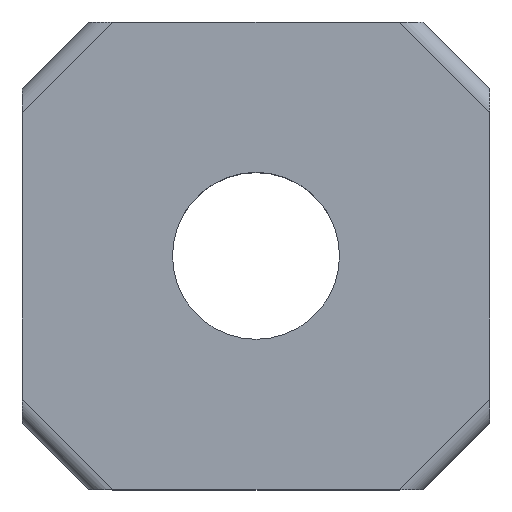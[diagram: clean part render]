
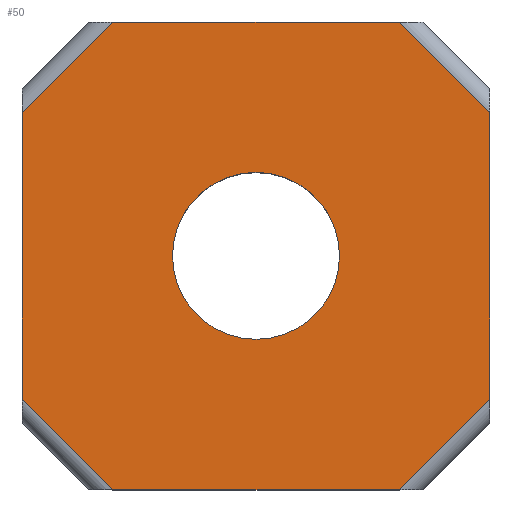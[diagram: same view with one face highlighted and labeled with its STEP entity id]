
A CAD part, top view. The second image highlights one B-rep face of the part: STEP entity #50.
In plain terms, the highlighted planar face has unit normal (0, 0, 1).
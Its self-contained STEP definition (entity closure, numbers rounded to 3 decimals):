
#2 = DIRECTION ( 'NONE',  ( 0.707, 0.707, 0. ) ) ;
#7 = DIRECTION ( 'NONE',  ( 0.707, -0.707, 0. ) ) ;
#10 = ORIENTED_EDGE ( 'NONE', *, *, #594, .T. ) ;
#11 = VECTOR ( 'NONE', #2, 1000. ) ;
#13 = VERTEX_POINT ( 'NONE', #42 ) ;
#14 = CARTESIAN_POINT ( 'NONE',  ( 10.372, 0.256, 6. ) ) ;
#15 = VECTOR ( 'NONE', #7, 1000. ) ;
#17 = DIRECTION ( 'NONE',  ( 0., -1., 0. ) ) ;
#19 = DIRECTION ( 'NONE',  ( 0., -1., 0. ) ) ;
#20 = DIRECTION ( 'NONE',  ( -0.707, -0.707, 0. ) ) ;
#25 = ORIENTED_EDGE ( 'NONE', *, *, #432, .T. ) ;
#26 = ORIENTED_EDGE ( 'NONE', *, *, #637, .F. ) ;
#42 = CARTESIAN_POINT ( 'NONE',  ( -0.921, 2.964, 6. ) ) ;
#50 = ADVANCED_FACE ( 'NONE', ( #423, #569 ), #577, .F. ) ;
#58 = CARTESIAN_POINT ( 'NONE',  ( 3.372, -4.036, 6. ) ) ;
#70 = VERTEX_POINT ( 'NONE', #639 ) ;
#72 = CARTESIAN_POINT ( 'NONE',  ( -3.628, 2.964, 6. ) ) ;
#80 = AXIS2_PLACEMENT_3D ( 'NONE', #58, #355, #301 ) ;
#91 = AXIS2_PLACEMENT_3D ( 'NONE', #318, #692, #546 ) ;
#104 = CARTESIAN_POINT ( 'NONE',  ( 0.872, -4.036, 6. ) ) ;
#111 = LINE ( 'NONE', #199, #11 ) ;
#139 = ORIENTED_EDGE ( 'NONE', *, *, #389, .F. ) ;
#147 = EDGE_LOOP ( 'NONE', ( #139, #207, #25, #10, #636, #646, #708, #269 ) ) ;
#159 = VERTEX_POINT ( 'NONE', #184 ) ;
#161 = LINE ( 'NONE', #255, #189 ) ;
#184 = CARTESIAN_POINT ( 'NONE',  ( -0.921, -11.036, 6. ) ) ;
#189 = VECTOR ( 'NONE', #602, 1000. ) ;
#199 = CARTESIAN_POINT ( 'NONE',  ( 10.019, -8.683, 6. ) ) ;
#207 = ORIENTED_EDGE ( 'NONE', *, *, #641, .T. ) ;
#209 = CARTESIAN_POINT ( 'NONE',  ( -3.274, 0.61, 6. ) ) ;
#255 = CARTESIAN_POINT ( 'NONE',  ( 8.019, 2.61, 6. ) ) ;
#258 = VECTOR ( 'NONE', #412, 1000. ) ;
#268 = LINE ( 'NONE', #574, #278 ) ;
#269 = ORIENTED_EDGE ( 'NONE', *, *, #662, .T. ) ;
#278 = VECTOR ( 'NONE', #281, 1000. ) ;
#281 = DIRECTION ( 'NONE',  ( 1., 0., 0. ) ) ;
#294 = CARTESIAN_POINT ( 'NONE',  ( -1.274, -10.683, 6. ) ) ;
#295 = ORIENTED_EDGE ( 'NONE', *, *, #612, .F. ) ;
#301 = DIRECTION ( 'NONE',  ( 1., 0., 0. ) ) ;
#305 = VERTEX_POINT ( 'NONE', #394 ) ;
#309 = AXIS2_PLACEMENT_3D ( 'NONE', #631, #379, #447 ) ;
#311 = EDGE_LOOP ( 'NONE', ( #26, #295 ) ) ;
#318 = CARTESIAN_POINT ( 'NONE',  ( 3.372, -4.036, 6. ) ) ;
#329 = LINE ( 'NONE', #617, #635 ) ;
#340 = VECTOR ( 'NONE', #20, 1000. ) ;
#355 = DIRECTION ( 'NONE',  ( 0., 0., 1. ) ) ;
#379 = DIRECTION ( 'NONE',  ( 0., 0., -1. ) ) ;
#388 = CIRCLE ( 'NONE', #80, 2.5 ) ;
#389 = EDGE_CURVE ( 'NONE', #13, #422, #268, .T. ) ;
#394 = CARTESIAN_POINT ( 'NONE',  ( 10.372, -8.329, 6. ) ) ;
#412 = DIRECTION ( 'NONE',  ( 1., 0., 0. ) ) ;
#422 = VERTEX_POINT ( 'NONE', #699 ) ;
#423 = FACE_BOUND ( 'NONE', #311, .T. ) ;
#424 = VECTOR ( 'NONE', #19, 1000. ) ;
#432 = EDGE_CURVE ( 'NONE', #587, #70, #578, .T. ) ;
#437 = VERTEX_POINT ( 'NONE', #14 ) ;
#447 = DIRECTION ( 'NONE',  ( -1., 0., 0. ) ) ;
#452 = CIRCLE ( 'NONE', #91, 2.5 ) ;
#471 = EDGE_CURVE ( 'NONE', #159, #687, #703, .T. ) ;
#513 = EDGE_CURVE ( 'NONE', #437, #305, #329, .T. ) ;
#534 = VERTEX_POINT ( 'NONE', #104 ) ;
#539 = CARTESIAN_POINT ( 'NONE',  ( -3.628, 0.256, 6. ) ) ;
#546 = DIRECTION ( 'NONE',  ( 1., 0., 0. ) ) ;
#560 = VERTEX_POINT ( 'NONE', #713 ) ;
#569 = FACE_OUTER_BOUND ( 'NONE', #147, .T. ) ;
#574 = CARTESIAN_POINT ( 'NONE',  ( -3.628, 2.964, 6. ) ) ;
#577 = PLANE ( 'NONE',  #309 ) ;
#578 = LINE ( 'NONE', #72, #424 ) ;
#587 = VERTEX_POINT ( 'NONE', #539 ) ;
#588 = CARTESIAN_POINT ( 'NONE',  ( -3.628, -11.036, 6. ) ) ;
#594 = EDGE_CURVE ( 'NONE', #70, #159, #679, .T. ) ;
#602 = DIRECTION ( 'NONE',  ( -0.707, 0.707, 0. ) ) ;
#612 = EDGE_CURVE ( 'NONE', #534, #560, #452, .T. ) ;
#617 = CARTESIAN_POINT ( 'NONE',  ( 10.372, 2.964, 6. ) ) ;
#631 = CARTESIAN_POINT ( 'NONE',  ( 0., 0., 6. ) ) ;
#635 = VECTOR ( 'NONE', #17, 1000. ) ;
#636 = ORIENTED_EDGE ( 'NONE', *, *, #471, .T. ) ;
#637 = EDGE_CURVE ( 'NONE', #560, #534, #388, .T. ) ;
#639 = CARTESIAN_POINT ( 'NONE',  ( -3.628, -8.329, 6. ) ) ;
#641 = EDGE_CURVE ( 'NONE', #13, #587, #722, .T. ) ;
#646 = ORIENTED_EDGE ( 'NONE', *, *, #652, .T. ) ;
#652 = EDGE_CURVE ( 'NONE', #687, #305, #111, .T. ) ;
#662 = EDGE_CURVE ( 'NONE', #437, #422, #161, .T. ) ;
#672 = CARTESIAN_POINT ( 'NONE',  ( 7.665, -11.036, 6. ) ) ;
#679 = LINE ( 'NONE', #294, #15 ) ;
#687 = VERTEX_POINT ( 'NONE', #672 ) ;
#692 = DIRECTION ( 'NONE',  ( 0., 0., 1. ) ) ;
#699 = CARTESIAN_POINT ( 'NONE',  ( 7.665, 2.964, 6. ) ) ;
#703 = LINE ( 'NONE', #588, #258 ) ;
#708 = ORIENTED_EDGE ( 'NONE', *, *, #513, .F. ) ;
#713 = CARTESIAN_POINT ( 'NONE',  ( 5.872, -4.036, 6. ) ) ;
#722 = LINE ( 'NONE', #209, #340 ) ;
